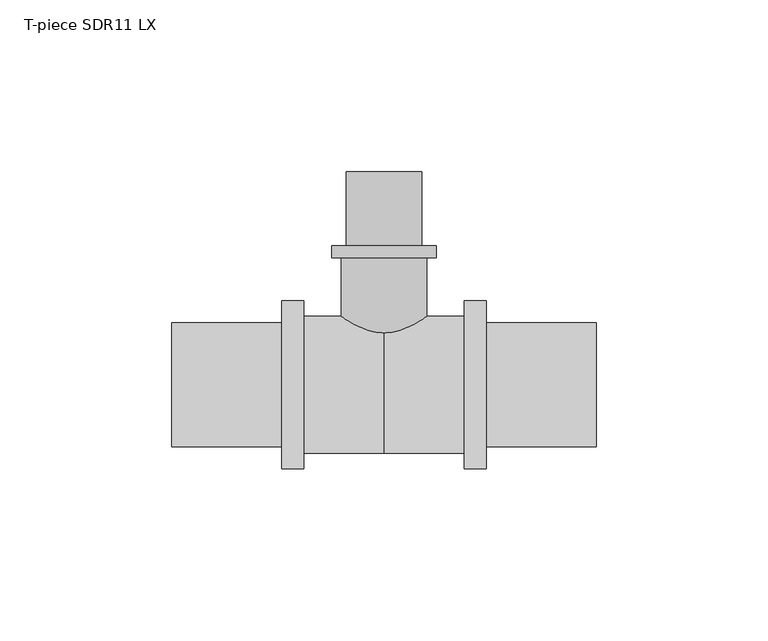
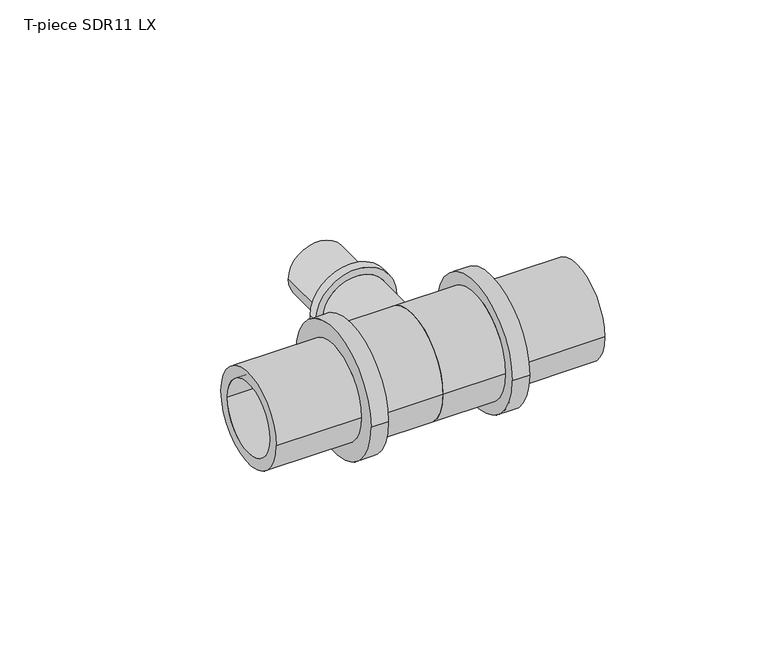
"""IFC4 building model written with IfcOpenShell, lengths in millimetres: pipe fitting geometry, T-piece SDR11 LX : T-piece LX SDR11 LX."""

from ifc_helpers import new_model, si_unit, point, frame, origin, place, context, project, spatial, polyline, circle_curve, ellipse_curve, trimmed, source, transform, mapped, element, save
from ifc_brep_helpers import plane_surface, cylinder_surface, revolved_surface, advanced_brep


def t_piece_sdr11_lx_8dcbc21c(model_context):
    return source(origin(), model_context, "Body", "AdvancedBrep", [
        advanced_brep(
        [(12.5, 1.255012, 0.0), (-12.5, 1.255012, 0.0), (-12.5, 36.9, 0.0), (12.5, 36.9, 0.0), (8.9, 62.0, 0.0), (-8.9, 62.0, 0.0), (-8.9, 0.0, 0.0), (8.9, 0.0, 0.0), (11.0, 40.5, 0.0), (-11.0, 40.5, 0.0), (-11.0, 62.0, 0.0), (11.0, 62.0, 0.0), (15.25, 36.9, 0.0), (-15.25, 36.9, 0.0), (-15.25, 40.5, 0.0), (15.25, 40.5, 0.0)],
        [
            (0, 1, circle_curve(frame((0.0, 1.255012, 0.0), z_axis=(0.0, 1.0, 0.0), x_axis=(-1.0, 0.0, 0.0)), 12.5)),
            (1, 2),
            (2, 3, circle_curve(frame((0.0, 36.9, 0.0), z_axis=(0.0, -1.0, 0.0), x_axis=(-1.0, 0.0, 0.0)), 12.5)),
            (3, 0),
            (4, 5, circle_curve(frame((0.0, 62.0, 0.0), z_axis=(0.0, 1.0, 0.0), x_axis=(-1.0, 0.0, 0.0)), 8.9)),
            (5, 6),
            (6, 7, circle_curve(frame((0.0, 0.0, 0.0), z_axis=(0.0, -1.0, 0.0), x_axis=(-1.0, 0.0, 0.0)), 8.9)),
            (7, 4),
            (8, 9, circle_curve(frame((0.0, 40.5, 0.0), z_axis=(0.0, 1.0, 0.0), x_axis=(-1.0, 0.0, 0.0)), 11.0)),
            (9, 10),
            (10, 11, circle_curve(frame((0.0, 62.0, 0.0), z_axis=(0.0, -1.0, 0.0), x_axis=(-1.0, 0.0, 0.0)), 11.0)),
            (11, 8),
            (12, 13, circle_curve(frame((0.0, 36.9, 0.0), z_axis=(0.0, 1.0, 0.0), x_axis=(-1.0, 0.0, 0.0)), 15.25)),
            (13, 14),
            (14, 15, circle_curve(frame((0.0, 40.5, 0.0), z_axis=(0.0, -1.0, 0.0), x_axis=(-1.0, 0.0, 0.0)), 15.25)),
            (15, 12),
            (12, 13, circle_curve(frame((0.0, 36.9, 0.0), z_axis=(0.0, -1.0, 0.0), x_axis=(1.0, 0.0, 0.0)), 15.25)),
            (2, 3, circle_curve(frame((0.0, 36.9, 0.0), z_axis=(0.0, 1.0, 0.0), x_axis=(1.0, 0.0, 0.0)), 12.5)),
            (1, 0, circle_curve(frame((0.0, 1.255012, 0.0), z_axis=(0.0, 1.0, 0.0), x_axis=(1.0, 0.0, 0.0)), 12.5)),
            (5, 4, circle_curve(frame((0.0, 62.0, 0.0), z_axis=(0.0, 1.0, 0.0), x_axis=(1.0, 0.0, 0.0)), 8.9)),
            (7, 6, circle_curve(frame((0.0, 0.0, 0.0), z_axis=(0.0, -1.0, 0.0), x_axis=(1.0, 0.0, 0.0)), 8.9)),
            (10, 11, circle_curve(frame((0.0, 62.0, 0.0), z_axis=(0.0, 1.0, 0.0), x_axis=(1.0, 0.0, 0.0)), 11.0)),
            (9, 8, circle_curve(frame((0.0, 40.5, 0.0), z_axis=(0.0, 1.0, 0.0), x_axis=(1.0, 0.0, 0.0)), 11.0)),
            (14, 15, circle_curve(frame((0.0, 40.5, 0.0), z_axis=(0.0, 1.0, 0.0), x_axis=(1.0, 0.0, 0.0)), 15.25)),
            (6, 1, circle_curve(frame((-4.1462802, 19.4268409, 0.0), z_axis=(0.0, 0.0, -1.0), x_axis=(0.0, -1.0, 0.0)), 20.0)),
            (0, 7, circle_curve(frame((4.1462802, 19.4268409, 0.0), z_axis=(0.0, 0.0, -1.0), x_axis=(0.0, -1.0, 0.0)), 20.0)),
        ],
        [
            cylinder_surface(frame((0.0, 0.0, 0.0), z_axis=(0.0, -1.0, 0.0), x_axis=(-1.0, 0.0, 0.0)), 12.5),
            revolved_surface(polyline([(-8.9, 0.0, 0.0), (-8.9, 62.0, 0.0)]), (0.0, 0.0, 0.0), (0.0, -1.0, 0.0)),
            cylinder_surface(frame((0.0, 0.0, 0.0), z_axis=(0.0, -1.0, 0.0), x_axis=(-1.0, 0.0, 0.0)), 11.0),
            cylinder_surface(frame((0.0, 0.0, 0.0), z_axis=(0.0, -1.0, 0.0), x_axis=(-1.0, 0.0, 0.0)), 15.25),
            plane_surface(frame((0.0, 36.9, 0.0), z_axis=(0.0, -1.0, 0.0), x_axis=(1.0, 0.0, 0.0))),
            cylinder_surface(frame((0.0, 0.0, 0.0), z_axis=(0.0, -1.0, 0.0), x_axis=(1.0, 0.0, 0.0)), 12.5),
            revolved_surface(polyline([(8.9, 0.0, 0.0), (8.9, 62.0, 0.0)]), (0.0, 0.0, 0.0), (0.0, -1.0, 0.0)),
            plane_surface(frame((0.0, 62.0, 0.0), z_axis=(0.0, 1.0, 0.0), x_axis=(1.0, 0.0, 0.0))),
            cylinder_surface(frame((0.0, 0.0, 0.0), z_axis=(0.0, -1.0, 0.0), x_axis=(1.0, 0.0, 0.0)), 11.0),
            plane_surface(frame((0.0, 40.5, 0.0), z_axis=(0.0, 1.0, 0.0), x_axis=(1.0, 0.0, 0.0))),
            cylinder_surface(frame((0.0, 0.0, 0.0), z_axis=(0.0, -1.0, 0.0), x_axis=(1.0, 0.0, 0.0)), 15.25),
            revolved_surface(trimmed(ellipse_curve(frame((-4.1462802, 19.4268409, 0.0), z_axis=(0.0, 0.0, 1.0), x_axis=(0.0, -1.0, 0.0)), 20.0, 20.0), [point((-12.5, 1.255012, 0.0))], [point((-8.9, 0.0, 0.0))], True, "CARTESIAN"), (0.0, 0.0, 0.0), (0.0, -1.0, 0.0)),
            revolved_surface(trimmed(ellipse_curve(frame((4.1462802, 19.4268409, 0.0), z_axis=(0.0, 0.0, -1.0), x_axis=(0.0, -1.0, 0.0)), 20.0, 20.0), [point((12.5, 1.255012, 0.0))], [point((8.9, 0.0, 0.0))], True, "CARTESIAN"), (0.0, 0.0, 0.0), (0.0, -1.0, 0.0)),
        ],
        [
            (0, [[1, 2, 3, 4]]),
            (1, [[5, 6, 7, 8]]),
            (2, [[9, 10, 11, 12]]),
            (3, [[13, 14, 15, 16]]),
            (4, [[17, -13], [18, -3]]),
            (5, [[19, -4, -18, -2]]),
            (6, [[20, -8, 21, -6]]),
            (7, [[22, -11], [-20, -5]]),
            (8, [[23, -12, -22, -10]]),
            (9, [[24, -15], [-23, -9]]),
            (10, [[-17, -16, -24, -14]]),
            (11, [[-7, 25, -1, 26]]),
            (12, [[-21, -26, -19, -25]]),
        ],
    ),
        advanced_brep(
        [(23.3, 20.0, 0.0), (23.3, -20.0, 0.0), (0.0, -20.0, 0.0), (0.0, 20.0, 0.0), (0.0, 13.75, 0.0), (0.0, -13.75, 0.0), (61.8, -13.75, 0.0), (61.8, 13.75, 0.0), (61.8, 18.0, 0.0), (61.8, -18.0, 0.0), (29.8, -18.0, 0.0), (29.8, 18.0, 0.0), (29.8, 24.5, 0.0), (29.8, -24.5, 0.0), (23.3, -24.5, 0.0), (23.3, 24.5, 0.0)],
        [
            (0, 1, circle_curve(frame((23.3, 0.0, 0.0), z_axis=(-1.0, 0.0, 0.0), x_axis=(0.0, -1.0, 0.0)), 20.0)),
            (1, 2),
            (2, 3, circle_curve(frame((0.0, 0.0, 0.0), z_axis=(1.0, 0.0, 0.0), x_axis=(0.0, -1.0, 0.0)), 20.0)),
            (3, 0),
            (4, 5, circle_curve(frame((0.0, 0.0, 0.0), z_axis=(-1.0, 0.0, 0.0), x_axis=(0.0, -1.0, 0.0)), 13.75)),
            (5, 6),
            (6, 7, circle_curve(frame((61.8, 0.0, 0.0), z_axis=(1.0, 0.0, 0.0), x_axis=(0.0, -1.0, 0.0)), 13.75)),
            (7, 4),
            (8, 9, circle_curve(frame((61.8, 0.0, 0.0), z_axis=(-1.0, 0.0, 0.0), x_axis=(0.0, -1.0, 0.0)), 18.0)),
            (9, 10),
            (10, 11, circle_curve(frame((29.8, 0.0, 0.0), z_axis=(1.0, 0.0, 0.0), x_axis=(0.0, -1.0, 0.0)), 18.0)),
            (11, 8),
            (12, 13, circle_curve(frame((29.8, 0.0, 0.0), z_axis=(-1.0, 0.0, 0.0), x_axis=(0.0, -1.0, 0.0)), 24.5)),
            (13, 14),
            (14, 15, circle_curve(frame((23.3, 0.0, 0.0), z_axis=(1.0, 0.0, 0.0), x_axis=(0.0, -1.0, 0.0)), 24.5)),
            (15, 12),
            (14, 15, circle_curve(frame((23.3, 0.0, 0.0), z_axis=(-1.0, 0.0, 0.0), x_axis=(0.0, 1.0, 0.0)), 24.5)),
            (0, 1, circle_curve(frame((23.3, 0.0, 0.0), z_axis=(1.0, 0.0, 0.0), x_axis=(0.0, 1.0, 0.0)), 20.0)),
            (3, 2, circle_curve(frame((0.0, 0.0, 0.0), z_axis=(1.0, 0.0, 0.0), x_axis=(0.0, 1.0, 0.0)), 20.0)),
            (4, 5, circle_curve(frame((0.0, 0.0, 0.0), z_axis=(1.0, 0.0, 0.0), x_axis=(0.0, 1.0, 0.0)), 13.75)),
            (7, 6, circle_curve(frame((61.8, 0.0, 0.0), z_axis=(1.0, 0.0, 0.0), x_axis=(0.0, 1.0, 0.0)), 13.75)),
            (8, 9, circle_curve(frame((61.8, 0.0, 0.0), z_axis=(1.0, 0.0, 0.0), x_axis=(0.0, 1.0, 0.0)), 18.0)),
            (11, 10, circle_curve(frame((29.8, 0.0, 0.0), z_axis=(1.0, 0.0, 0.0), x_axis=(0.0, 1.0, 0.0)), 18.0)),
            (12, 13, circle_curve(frame((29.8, 0.0, 0.0), z_axis=(1.0, 0.0, 0.0), x_axis=(0.0, 1.0, 0.0)), 24.5)),
        ],
        [
            cylinder_surface(frame((0.0, 0.0, 0.0), z_axis=(1.0, 0.0, 0.0), x_axis=(0.0, -1.0, 0.0)), 20.0),
            revolved_surface(polyline([(61.8, -13.75, 0.0), (0.0, -13.75, 0.0)]), (0.0, 0.0, 0.0), (1.0, 0.0, 0.0)),
            cylinder_surface(frame((0.0, 0.0, 0.0), z_axis=(1.0, 0.0, 0.0), x_axis=(0.0, -1.0, 0.0)), 18.0),
            cylinder_surface(frame((0.0, 0.0, 0.0), z_axis=(1.0, 0.0, 0.0), x_axis=(0.0, -1.0, 0.0)), 24.5),
            plane_surface(frame((23.3, 0.0, 0.0), z_axis=(-1.0, 0.0, 0.0), x_axis=(0.0, 1.0, 0.0))),
            cylinder_surface(frame((0.0, 0.0, 0.0), z_axis=(1.0, 0.0, 0.0), x_axis=(0.0, 1.0, 0.0)), 20.0),
            plane_surface(frame((0.0, 0.0, 0.0), z_axis=(-1.0, 0.0, 0.0), x_axis=(0.0, 1.0, 0.0))),
            revolved_surface(polyline([(61.8, 13.75, 0.0), (0.0, 13.75, 0.0)]), (0.0, 0.0, 0.0), (1.0, 0.0, 0.0)),
            plane_surface(frame((61.8, 0.0, 0.0), z_axis=(1.0, 0.0, 0.0), x_axis=(0.0, 1.0, 0.0))),
            cylinder_surface(frame((0.0, 0.0, 0.0), z_axis=(1.0, 0.0, 0.0), x_axis=(0.0, 1.0, 0.0)), 18.0),
            plane_surface(frame((29.8, 0.0, 0.0), z_axis=(1.0, 0.0, 0.0), x_axis=(0.0, 1.0, 0.0))),
            cylinder_surface(frame((0.0, 0.0, 0.0), z_axis=(1.0, 0.0, 0.0), x_axis=(0.0, 1.0, 0.0)), 24.5),
        ],
        [
            (0, [[1, 2, 3, 4]]),
            (1, [[5, 6, 7, 8]]),
            (2, [[9, 10, 11, 12]]),
            (3, [[13, 14, 15, 16]]),
            (4, [[17, -15], [18, -1]]),
            (5, [[-18, -4, 19, -2]]),
            (6, [[-19, -3], [20, -5]]),
            (7, [[-20, -8, 21, -6]]),
            (8, [[22, -9], [-21, -7]]),
            (9, [[-22, -12, 23, -10]]),
            (10, [[24, -13], [-23, -11]]),
            (11, [[-24, -16, -17, -14]]),
        ],
    ),
        advanced_brep(
        [(0.0, 20.0, 0.0), (0.0, -20.0, 0.0), (-23.3, -20.0, 0.0), (-23.3, 20.0, 0.0), (-61.8, 13.75, 0.0), (-61.8, -13.75, 0.0), (0.0, -13.75, 0.0), (0.0, 13.75, 0.0), (-29.8, 18.0, 0.0), (-29.8, -18.0, 0.0), (-61.8, -18.0, 0.0), (-61.8, 18.0, 0.0), (-23.3, 24.5, 0.0), (-23.3, -24.5, 0.0), (-29.8, -24.5, 0.0), (-29.8, 24.5, 0.0)],
        [
            (0, 1, circle_curve(frame((0.0, 0.0, 0.0), z_axis=(-1.0, 0.0, 0.0), x_axis=(0.0, -1.0, 0.0)), 20.0)),
            (1, 2),
            (2, 3, circle_curve(frame((-23.3, 0.0, 0.0), z_axis=(1.0, 0.0, 0.0), x_axis=(0.0, -1.0, 0.0)), 20.0)),
            (3, 0),
            (4, 5, circle_curve(frame((-61.8, 0.0, 0.0), z_axis=(-1.0, 0.0, 0.0), x_axis=(0.0, -1.0, 0.0)), 13.75)),
            (5, 6),
            (6, 7, circle_curve(frame((0.0, 0.0, 0.0), z_axis=(1.0, 0.0, 0.0), x_axis=(0.0, -1.0, 0.0)), 13.75)),
            (7, 4),
            (8, 9, circle_curve(frame((-29.8, 0.0, 0.0), z_axis=(-1.0, 0.0, 0.0), x_axis=(0.0, -1.0, 0.0)), 18.0)),
            (9, 10),
            (10, 11, circle_curve(frame((-61.8, 0.0, 0.0), z_axis=(1.0, 0.0, 0.0), x_axis=(0.0, -1.0, 0.0)), 18.0)),
            (11, 8),
            (12, 13, circle_curve(frame((-23.3, 0.0, 0.0), z_axis=(-1.0, 0.0, 0.0), x_axis=(0.0, -1.0, 0.0)), 24.5)),
            (13, 14),
            (14, 15, circle_curve(frame((-29.8, 0.0, 0.0), z_axis=(1.0, 0.0, 0.0), x_axis=(0.0, -1.0, 0.0)), 24.5)),
            (15, 12),
            (12, 13, circle_curve(frame((-23.3, 0.0, 0.0), z_axis=(1.0, 0.0, 0.0), x_axis=(0.0, 1.0, 0.0)), 24.5)),
            (2, 3, circle_curve(frame((-23.3, 0.0, 0.0), z_axis=(-1.0, 0.0, 0.0), x_axis=(0.0, 1.0, 0.0)), 20.0)),
            (1, 0, circle_curve(frame((0.0, 0.0, 0.0), z_axis=(-1.0, 0.0, 0.0), x_axis=(0.0, 1.0, 0.0)), 20.0)),
            (6, 7, circle_curve(frame((0.0, 0.0, 0.0), z_axis=(-1.0, 0.0, 0.0), x_axis=(0.0, 1.0, 0.0)), 13.75)),
            (5, 4, circle_curve(frame((-61.8, 0.0, 0.0), z_axis=(-1.0, 0.0, 0.0), x_axis=(0.0, 1.0, 0.0)), 13.75)),
            (10, 11, circle_curve(frame((-61.8, 0.0, 0.0), z_axis=(-1.0, 0.0, 0.0), x_axis=(0.0, 1.0, 0.0)), 18.0)),
            (9, 8, circle_curve(frame((-29.8, 0.0, 0.0), z_axis=(-1.0, 0.0, 0.0), x_axis=(0.0, 1.0, 0.0)), 18.0)),
            (14, 15, circle_curve(frame((-29.8, 0.0, 0.0), z_axis=(-1.0, 0.0, 0.0), x_axis=(0.0, 1.0, 0.0)), 24.5)),
        ],
        [
            cylinder_surface(frame((0.0, 0.0, 0.0), z_axis=(1.0, 0.0, 0.0), x_axis=(0.0, -1.0, 0.0)), 20.0),
            revolved_surface(polyline([(0.0, -13.75, 0.0), (-61.8, -13.75, 0.0)]), (0.0, 0.0, 0.0), (1.0, 0.0, 0.0)),
            cylinder_surface(frame((0.0, 0.0, 0.0), z_axis=(1.0, 0.0, 0.0), x_axis=(0.0, -1.0, 0.0)), 18.0),
            cylinder_surface(frame((0.0, 0.0, 0.0), z_axis=(1.0, 0.0, 0.0), x_axis=(0.0, -1.0, 0.0)), 24.5),
            plane_surface(frame((-23.3, 0.0, 0.0), z_axis=(1.0, 0.0, 0.0), x_axis=(0.0, 1.0, 0.0))),
            cylinder_surface(frame((0.0, 0.0, 0.0), z_axis=(1.0, 0.0, 0.0), x_axis=(0.0, 1.0, 0.0)), 20.0),
            plane_surface(frame((0.0, 0.0, 0.0), z_axis=(1.0, 0.0, 0.0), x_axis=(0.0, 1.0, 0.0))),
            revolved_surface(polyline([(0.0, 13.75, 0.0), (-61.8, 13.75, 0.0)]), (0.0, 0.0, 0.0), (1.0, 0.0, 0.0)),
            plane_surface(frame((-61.8, 0.0, 0.0), z_axis=(-1.0, 0.0, 0.0), x_axis=(0.0, 1.0, 0.0))),
            cylinder_surface(frame((0.0, 0.0, 0.0), z_axis=(1.0, 0.0, 0.0), x_axis=(0.0, 1.0, 0.0)), 18.0),
            plane_surface(frame((-29.8, 0.0, 0.0), z_axis=(-1.0, 0.0, 0.0), x_axis=(0.0, 1.0, 0.0))),
            cylinder_surface(frame((0.0, 0.0, 0.0), z_axis=(1.0, 0.0, 0.0), x_axis=(0.0, 1.0, 0.0)), 24.5),
        ],
        [
            (0, [[1, 2, 3, 4]]),
            (1, [[5, 6, 7, 8]]),
            (2, [[9, 10, 11, 12]]),
            (3, [[13, 14, 15, 16]]),
            (4, [[17, -13], [18, -3]]),
            (5, [[19, -4, -18, -2]]),
            (6, [[-19, -1], [20, -7]]),
            (7, [[21, -8, -20, -6]]),
            (8, [[22, -11], [-21, -5]]),
            (9, [[23, -12, -22, -10]]),
            (10, [[24, -15], [-23, -9]]),
            (11, [[-17, -16, -24, -14]]),
        ],
    ),
    ])


if __name__ == "__main__":
    model = new_model("IFC4")
    model_context = context("Model", 3, world=origin())
    ifc_project = project(units=[si_unit("LENGTHUNIT", "METRE", prefix="MILLI")], contexts=[model_context])
    site = spatial("IfcSite", under=ifc_project)
    building = spatial("IfcBuilding", under=site)
    placement = place(None, origin())
    t_piece_sdr11_lx_shape = t_piece_sdr11_lx_8dcbc21c(model_context)
    element("IfcPipeFitting", 1, ObjectType="T-piece SDR11 LX : T-piece LX SDR11 LX", at=placement, inside=building, context=model_context, shape_type="MappedRepresentation", body=[
        mapped(t_piece_sdr11_lx_shape, transform((0.0, 0.0, 0.0), x_axis=(1.0, 0.0, 0.0), y_axis=(0.0, 1.0, 0.0), z_axis=(0.0, 0.0, 1.0))),
    ])
    save(model, "model.ifc")
